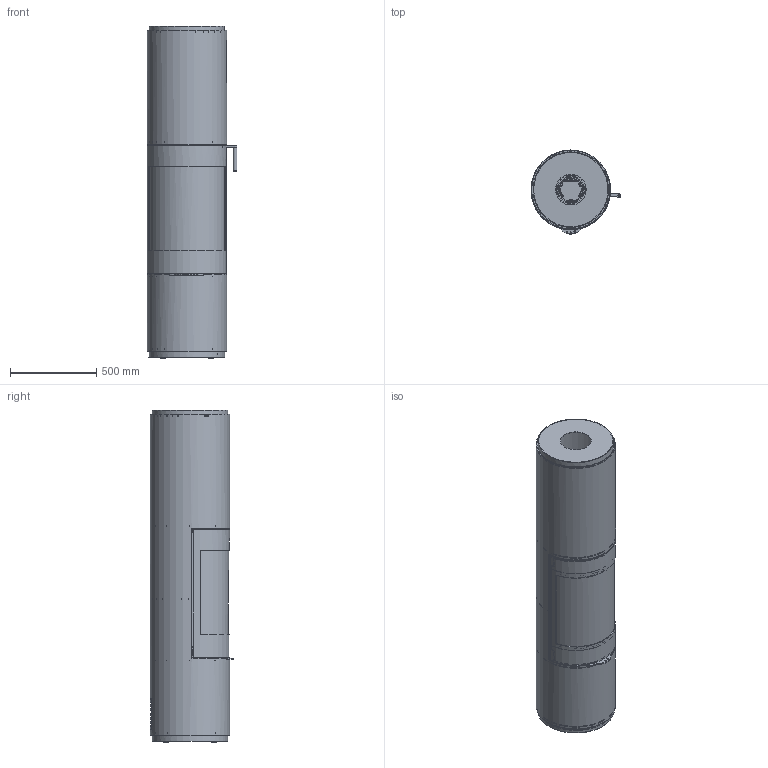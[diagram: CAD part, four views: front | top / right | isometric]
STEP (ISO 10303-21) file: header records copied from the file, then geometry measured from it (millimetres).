
FILE_DESCRIPTION(/* description */ (''),/* implementation_level */ '2;1');
FILE_NAME(/* name */ '16-0151 Pilar 1900 Classic TO.stp',/* time_stamp */ '2025-02-15T10:58:09+01:00',/* author */ ('pch'),/* organization */ (''),/* preprocessor_version */ 'ST-DEVELOPER v20',/* originating_system */ 'Autodesk Inventor 2025',/* authorisation */ '');
FILE_SCHEMA (('AUTOMOTIVE_DESIGN { 1 0 10303 214 3 1 1 }'));
Products named in the file (1): 16-0151 Pilar 1900 Classic TO
Bounding box: 522.14 x 487 x 1930 mm (x, y, z)
Volume: 17372693.9 mm3; surface area: 9221584.1 mm2
Topology: 10 solids, 10 shells, 2792 faces, 8049 edges, 5191 vertices
Faces by surface type: plane 1532, cylinder 1104, bspline 90, torus 39, cone 16, sphere 11
Full cylindrical faces by diameter (mm): 4.2 x48, 4.662 x1, 4.917 x3, 5 x3, 5.1 x5, 5.5 x5, 6 x6, 6.75 x1, 7 x4, 8.25 x2, 8.5 x1, 10 x12, 12.5 x1, 21.8 x2, 94 x1, 98 x1, 160 x1, 178 x1, 414 x1, 456 x3, 462 x1
Entity records: 102805 total; most frequent: CARTESIAN_POINT 24445, ORIENTED_EDGE 16130, DIRECTION 15617, EDGE_CURVE 8065, AXIS2_PLACEMENT_3D 5322, VERTEX_POINT 5210, LINE 4973, VECTOR 4973
